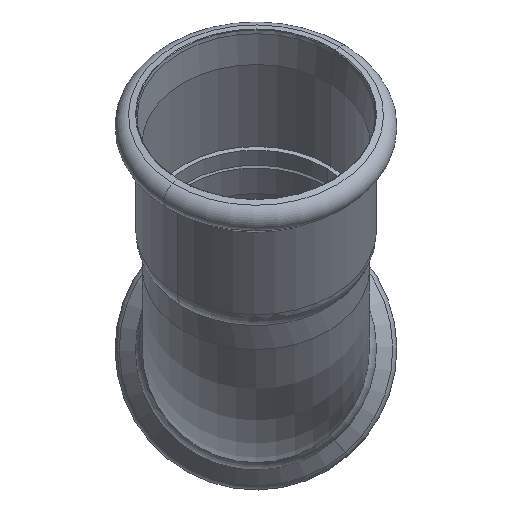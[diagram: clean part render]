
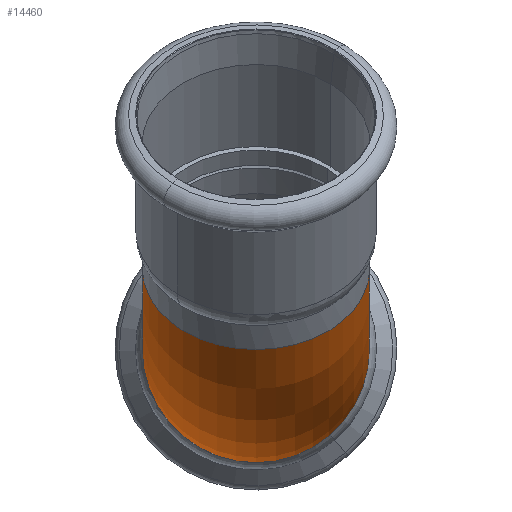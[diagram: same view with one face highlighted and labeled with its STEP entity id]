
A CAD part, left-side view. The second image highlights one B-rep face of the part: STEP entity #14460.
In plain terms, the highlighted toroidal (fillet/blend) face has major radius 80 mm and minor radius 33.35 mm.
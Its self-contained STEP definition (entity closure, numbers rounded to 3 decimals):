
#840=CARTESIAN_POINT('',(0.033,33.35,0.));
#850=VERTEX_POINT('',#840);
#900=CARTESIAN_POINT('',(0.033,0.,0.));
#910=DIRECTION('',(-1.,0.,0.));
#920=DIRECTION('',(0.,1.,0.));
#930=AXIS2_PLACEMENT_3D('',#900,#910,#920);
#940=CIRCLE('',#930,33.35);
#950=CARTESIAN_POINT('',(0.033,-33.35,0.
));
#960=VERTEX_POINT('',#950);
#970=EDGE_CURVE('',#850,#960,#940,.T.);
#7690=CARTESIAN_POINT('',(-56.536,33.35,23.431));
#7700=VERTEX_POINT('',#7690);
#7730=CARTESIAN_POINT('',(-56.536,0.,23.431));
#7740=DIRECTION('',(-0.707,0.,0.707));
#7750=DIRECTION('',(0.,1.,0.));
#7760=AXIS2_PLACEMENT_3D('',#7730,#7740,#7750);
#7770=CIRCLE('',#7760,33.35);
#7780=CARTESIAN_POINT('',(-56.536,-33.35,23.431));
#7790=VERTEX_POINT('',#7780);
#8110=EDGE_CURVE('',#7700,#7790,#7770,.T.);
#14160=CARTESIAN_POINT('',(0.033,0.,80.));
#14170=DIRECTION('',(0.,1.,0.));
#14180=DIRECTION('',(0.,0.,-1.));
#14190=AXIS2_PLACEMENT_3D('',#14160,#14170,#14180);
#14200=TOROIDAL_SURFACE('',#14190,80.,33.35);
#14210=CARTESIAN_POINT('',(0.033,33.35,80.));
#14220=DIRECTION('',(0.,1.,0.));
#14230=DIRECTION('',(0.,0.,-1.));
#14240=AXIS2_PLACEMENT_3D('',#14210,#14220,#14230);
#14250=CIRCLE('',#14240,80.);
#14260=EDGE_CURVE('',#850,#7700,#14250,.T.);
#14290=CARTESIAN_POINT('',(0.033,-33.35,80.));
#14300=DIRECTION('',(0.,1.,0.));
#14310=DIRECTION('',(0.,0.,-1.));
#14320=AXIS2_PLACEMENT_3D('',#14290,#14300,#14310);
#14330=CIRCLE('',#14320,80.);
#14340=EDGE_CURVE('',#960,#7790,#14330,.T.);
#14400=ORIENTED_EDGE('',*,*,#14260,.F.);
#14410=ORIENTED_EDGE('',*,*,#8110,.F.);
#14420=ORIENTED_EDGE('',*,*,#14340,.T.);
#14430=ORIENTED_EDGE('',*,*,#970,.T.);
#14440=EDGE_LOOP('',(#14430,#14420,#14410,#14400));
#14450=FACE_OUTER_BOUND('',#14440,.T.);
#14460=ADVANCED_FACE('',(#14450),#14200,.T.);
